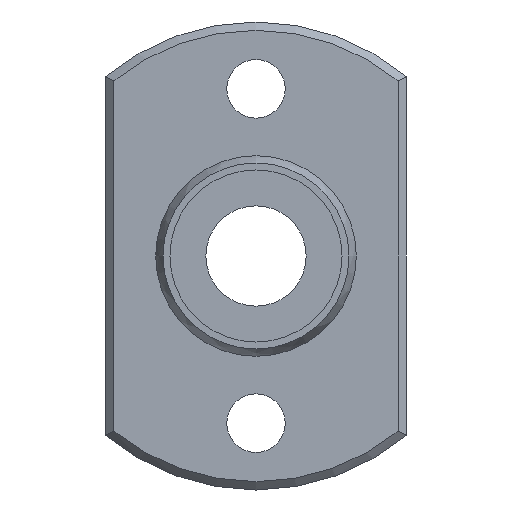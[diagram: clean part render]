
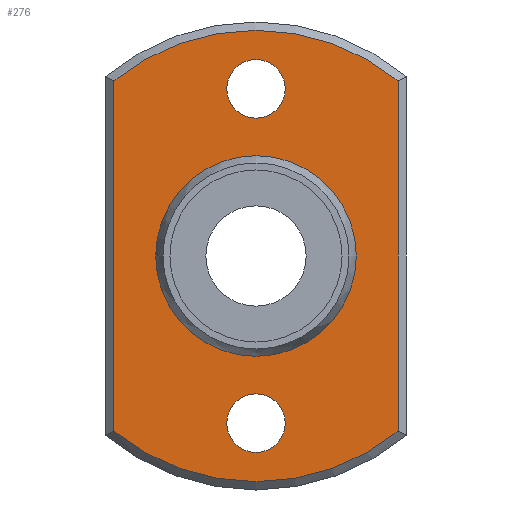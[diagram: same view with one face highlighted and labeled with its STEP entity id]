
A CAD part, left-side view. The second image highlights one B-rep face of the part: STEP entity #276.
In plain terms, the highlighted planar face has unit normal (-1, 0, 0).
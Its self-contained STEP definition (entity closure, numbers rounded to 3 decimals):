
#59=CARTESIAN_POINT('',(5.,8.5,-10.488));
#60=VERTEX_POINT('',#59);
#68=CARTESIAN_POINT('',(5.,8.5,10.488));
#69=VERTEX_POINT('',#68);
#70=CARTESIAN_POINT('',(5.,8.5,-10.488));
#71=DIRECTION('',(0.0,0.0,1.0));
#72=VECTOR('',#71,20.976);
#73=LINE('',#70,#72);
#74=EDGE_CURVE('',#60,#69,#73,.T.);
#101=CARTESIAN_POINT('',(5.,-8.5,10.488));
#102=VERTEX_POINT('',#101);
#103=CARTESIAN_POINT('',(5.,0.0,0.0));
#104=DIRECTION('',(1.0,0.0,0.0));
#105=DIRECTION('',(0.0,0.0,1.0));
#106=AXIS2_PLACEMENT_3D('',#103,#104,#105);
#107=CIRCLE('',#106,13.5);
#108=EDGE_CURVE('',#69,#102,#107,.T.);
#134=CARTESIAN_POINT('',(5.,-8.5,-10.488));
#135=VERTEX_POINT('',#134);
#136=CARTESIAN_POINT('',(5.,-8.5,10.488));
#137=DIRECTION('',(0.0,0.0,-1.0));
#138=VECTOR('',#137,20.976);
#139=LINE('',#136,#138);
#140=EDGE_CURVE('',#102,#135,#139,.T.);
#165=CARTESIAN_POINT('',(5.,0.0,0.0));
#166=DIRECTION('',(1.0,0.0,0.0));
#167=DIRECTION('',(0.0,0.0,-1.0));
#168=AXIS2_PLACEMENT_3D('',#165,#166,#167);
#169=CIRCLE('',#168,13.5);
#170=EDGE_CURVE('',#135,#60,#169,.T.);
#232=CARTESIAN_POINT('',(5.,0.0,9.905));
#233=DIRECTION('',(-1.0,0.0,0.0));
#234=DIRECTION('',(0.0,0.0,1.0));
#235=AXIS2_PLACEMENT_3D('',#232,#233,#234);
#236=PLANE('',#235);
#237=ORIENTED_EDGE('',*,*,#74,.F.);
#238=ORIENTED_EDGE('',*,*,#170,.F.);
#239=ORIENTED_EDGE('',*,*,#140,.F.);
#240=ORIENTED_EDGE('',*,*,#108,.F.);
#241=EDGE_LOOP('',(#237,#238,#239,#240));
#242=FACE_OUTER_BOUND('',#241,.T.);
#243=CARTESIAN_POINT('',(5.0,0.0,5.809));
#244=VERTEX_POINT('',#243);
#245=CARTESIAN_POINT('',(5.0,0.0,0.0));
#246=DIRECTION('',(-1.0,0.0,0.0));
#247=DIRECTION('',(0.0,0.0,1.0));
#248=AXIS2_PLACEMENT_3D('',#245,#246,#247);
#249=CIRCLE('',#248,5.809);
#250=EDGE_CURVE('',#244,#244,#249,.T.);
#251=ORIENTED_EDGE('',*,*,#250,.F.);
#252=EDGE_LOOP('',(#251));
#253=FACE_BOUND('',#252,.T.);
#254=CARTESIAN_POINT('',(5.0,-1.75,-10.0));
#255=VERTEX_POINT('',#254);
#256=CARTESIAN_POINT('',(5.0,0.,-10.0));
#257=DIRECTION('',(1.0,0.0,0.0));
#258=DIRECTION('',(0.0,1.0,0.0));
#259=AXIS2_PLACEMENT_3D('',#256,#257,#258);
#260=CIRCLE('',#259,1.75);
#261=EDGE_CURVE('',#255,#255,#260,.T.);
#262=ORIENTED_EDGE('',*,*,#261,.T.);
#263=EDGE_LOOP('',(#262));
#264=FACE_BOUND('',#263,.T.);
#265=CARTESIAN_POINT('',(5.0,-1.75,10.0));
#266=VERTEX_POINT('',#265);
#267=CARTESIAN_POINT('',(5.0,0.,10.0));
#268=DIRECTION('',(1.0,0.0,0.0));
#269=DIRECTION('',(0.0,1.0,0.0));
#270=AXIS2_PLACEMENT_3D('',#267,#268,#269);
#271=CIRCLE('',#270,1.75);
#272=EDGE_CURVE('',#266,#266,#271,.T.);
#273=ORIENTED_EDGE('',*,*,#272,.T.);
#274=EDGE_LOOP('',(#273));
#275=FACE_BOUND('',#274,.T.);
#276=ADVANCED_FACE('',(#242,#253,#264,#275),#236,.T.);
